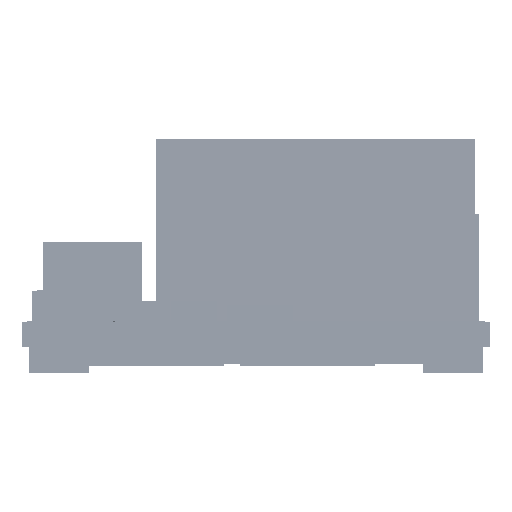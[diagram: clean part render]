
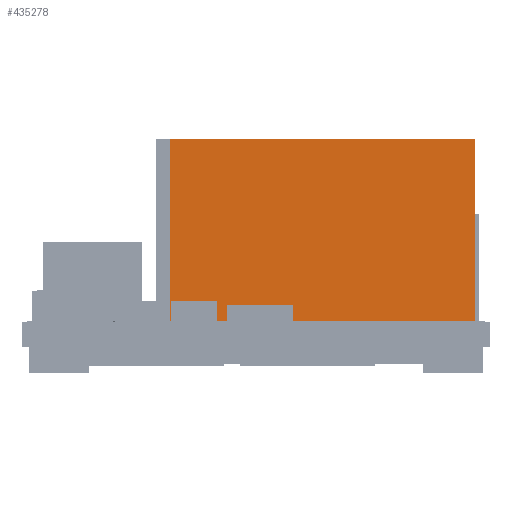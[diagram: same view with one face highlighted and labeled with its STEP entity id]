
A CAD part, left-side view. The second image highlights one B-rep face of the part: STEP entity #435278.
In plain terms, the highlighted face is a extrusion surface.
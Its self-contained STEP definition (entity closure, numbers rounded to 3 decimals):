
#435278 = ADVANCED_FACE('',(#435279),#435313,.T.);
#435279 = FACE_BOUND('',#435280,.T.);
#435280 = EDGE_LOOP('',(#435281,#435291,#435299,#435307));
#435281 = ORIENTED_EDGE('',*,*,#435282,.T.);
#435282 = EDGE_CURVE('',#435283,#435285,#435287,.T.);
#435283 = VERTEX_POINT('',#435284);
#435284 = CARTESIAN_POINT('',(3.432,-1.405,11.684));
#435285 = VERTEX_POINT('',#435286);
#435286 = CARTESIAN_POINT('',(3.33,18.176,11.684));
#435287 = LINE('',#435288,#435289);
#435288 = CARTESIAN_POINT('',(3.432,-1.405,11.684));
#435289 = VECTOR('',#435290,1.);
#435290 = DIRECTION('',(-0.005,1.,0.));
#435291 = ORIENTED_EDGE('',*,*,#435292,.T.);
#435292 = EDGE_CURVE('',#435285,#435293,#435295,.T.);
#435293 = VERTEX_POINT('',#435294);
#435294 = CARTESIAN_POINT('',(3.33,18.176,0.));
#435295 = LINE('',#435296,#435297);
#435296 = CARTESIAN_POINT('',(3.33,18.176,11.684));
#435297 = VECTOR('',#435298,1.);
#435298 = DIRECTION('',(0.,0.,-1.));
#435299 = ORIENTED_EDGE('',*,*,#435300,.T.);
#435300 = EDGE_CURVE('',#435293,#435301,#435303,.T.);
#435301 = VERTEX_POINT('',#435302);
#435302 = CARTESIAN_POINT('',(3.432,-1.405,0.));
#435303 = LINE('',#435304,#435305);
#435304 = CARTESIAN_POINT('',(3.33,18.176,0.));
#435305 = VECTOR('',#435306,1.);
#435306 = DIRECTION('',(0.005,-1.,0.));
#435307 = ORIENTED_EDGE('',*,*,#435308,.T.);
#435308 = EDGE_CURVE('',#435301,#435283,#435309,.T.);
#435309 = LINE('',#435310,#435311);
#435310 = CARTESIAN_POINT('',(3.432,-1.405,0.));
#435311 = VECTOR('',#435312,1.);
#435312 = DIRECTION('',(0.,0.,1.));
#435313 = SURFACE_OF_LINEAR_EXTRUSION('',#435314,#435318);
#435314 = LINE('',#435315,#435316);
#435315 = CARTESIAN_POINT('',(3.432,-1.405,0.));
#435316 = VECTOR('',#435317,1.);
#435317 = DIRECTION('',(0.,0.,1.));
#435318 = VECTOR('',#435319,1.);
#435319 = DIRECTION('',(-0.005,1.,0.));
